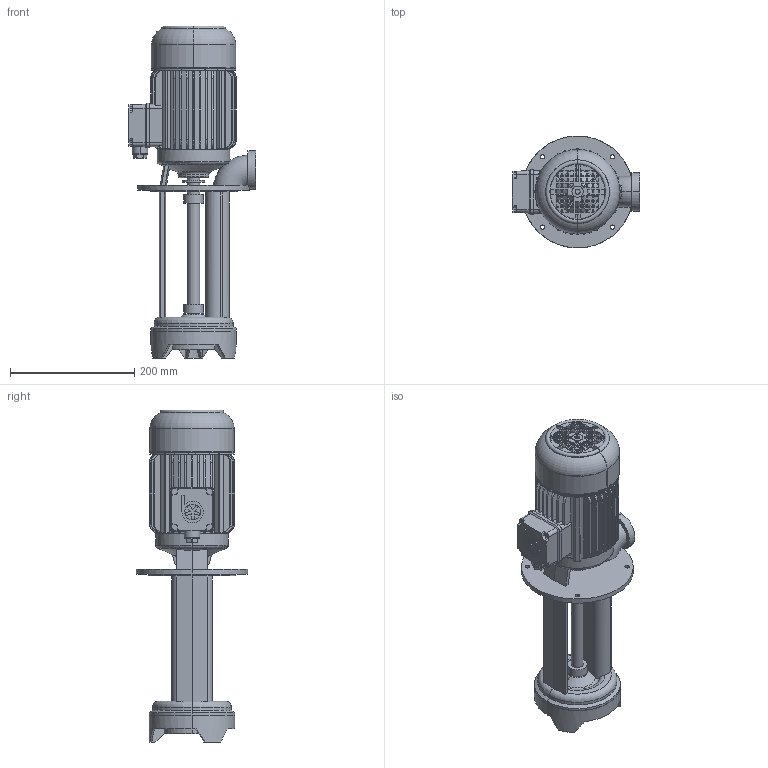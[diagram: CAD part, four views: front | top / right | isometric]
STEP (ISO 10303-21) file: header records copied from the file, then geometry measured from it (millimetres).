
FILE_DESCRIPTION(('no description'),'unknown implementation level');
FILE_NAME('TA400_270_2.stp',' ',('K. H. Brinkmann GmbH & Co. KG'),('CADClick - KiM GmbH - www.kimweb.de'),'unknown preprocess','ACIS','unknown authorization');
FILE_SCHEMA(('automotive_design'));
Length unit declared in the file: millimetre
Products named in the file (3): 1; 2; 3
Bounding box: 205 x 180 x 533.99 mm (x, y, z)
Volume: 4124193.8 mm3; surface area: 538846 mm2
Topology: 3 solids, 3 shells, 833 faces, 2237 edges, 1450 vertices
Faces by surface type: plane 491, cylinder 178, torus 114, cone 48, revolution 2
Entity records: 56518 total; most frequent: CARTESIAN_POINT 10179, STYLED_ITEM 4523, PRESENTATION_STYLE_ASSIGNMENT 4523, COLOUR_RGB 4523, ORIENTED_EDGE 4474, DIRECTION 4317, EDGE_CURVE 2237, CURVE_STYLE 2237
